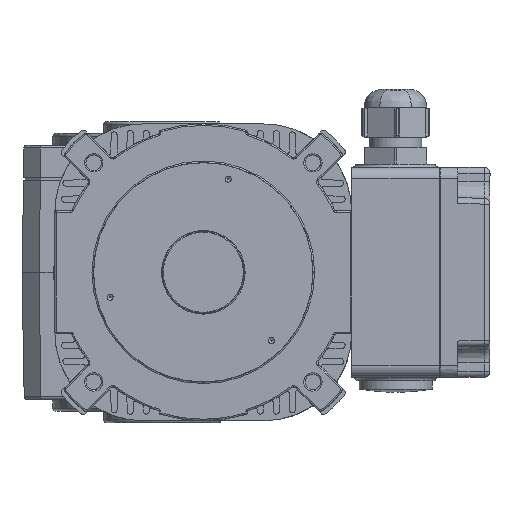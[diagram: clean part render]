
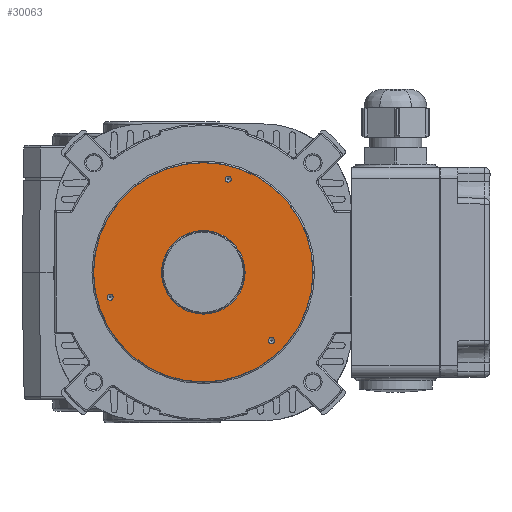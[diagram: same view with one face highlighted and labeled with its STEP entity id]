
A CAD part, left-side view. The second image highlights one B-rep face of the part: STEP entity #30063.
In plain terms, the highlighted planar face has unit normal (-1, 0, 0) as drawn and (0, 0, 1) by its records, which use the part's own axes.
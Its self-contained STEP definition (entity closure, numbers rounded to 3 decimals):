
#16 = EDGE_LOOP ( 'NONE', ( #26594 ) ) ;
#688 = DIRECTION ( 'NONE',  ( 1., 0., 0. ) ) ;
#2523 = ORIENTED_EDGE ( 'NONE', *, *, #42762, .F. ) ;
#4387 = VERTEX_POINT ( 'NONE', #25545 ) ;
#4576 = DIRECTION ( 'NONE',  ( 0., 0., -1. ) ) ;
#4956 = VERTEX_POINT ( 'NONE', #25117 ) ;
#5029 = CIRCLE ( 'NONE', #29262, 14.3 ) ;
#6303 = EDGE_CURVE ( 'NONE', #11979, #11979, #28848, .T. ) ;
#6792 = AXIS2_PLACEMENT_3D ( 'NONE', #9755, #20076, #30026 ) ;
#7271 = DIRECTION ( 'NONE',  ( 1., 0., 0. ) ) ;
#7310 = DIRECTION ( 'NONE',  ( 1., 0., 0. ) ) ;
#9412 = EDGE_LOOP ( 'NONE', ( #43195 ) ) ;
#9755 = CARTESIAN_POINT ( 'NONE',  ( -31.876, 8.541, 19.3 ) ) ;
#10774 = DIRECTION ( 'NONE',  ( 0., 0., 1. ) ) ;
#11979 = VERTEX_POINT ( 'NONE', #16532 ) ;
#12572 = CARTESIAN_POINT ( 'NONE',  ( 23.335, 23.335, 19.3 ) ) ;
#13316 = CIRCLE ( 'NONE', #29745, 37.5 ) ;
#15280 = CARTESIAN_POINT ( 'NONE',  ( 0., 0., 19.3 ) ) ;
#16532 = CARTESIAN_POINT ( 'NONE',  ( 22.81, 24.244, 19.3 ) ) ;
#17618 = DIRECTION ( 'NONE',  ( 0., 0., 1. ) ) ;
#18434 = CIRCLE ( 'NONE', #36463, 1.05 ) ;
#19096 = EDGE_LOOP ( 'NONE', ( #2523 ) ) ;
#20002 = AXIS2_PLACEMENT_3D ( 'NONE', #12572, #29977, #22917 ) ;
#20076 = DIRECTION ( 'NONE',  ( 0., 0., 1. ) ) ;
#20240 = CARTESIAN_POINT ( 'NONE',  ( -32.401, 7.632, 19.3 ) ) ;
#20694 = EDGE_LOOP ( 'NONE', ( #41448 ) ) ;
#21461 = AXIS2_PLACEMENT_3D ( 'NONE', #34817, #17618, #7310 ) ;
#22917 = DIRECTION ( 'NONE',  ( -0.5, 0.866, 0. ) ) ;
#24446 = FACE_BOUND ( 'NONE', #20694, .T. ) ;
#25117 = CARTESIAN_POINT ( 'NONE',  ( 9.591, -31.876, 19.3 ) ) ;
#25388 = EDGE_LOOP ( 'NONE', ( #35849 ) ) ;
#25545 = CARTESIAN_POINT ( 'NONE',  ( 37.5, 0., 19.3 ) ) ;
#26554 = EDGE_CURVE ( 'NONE', #4387, #4387, #13316, .T. ) ;
#26594 = ORIENTED_EDGE ( 'NONE', *, *, #31242, .F. ) ;
#28848 = CIRCLE ( 'NONE', #20002, 1.05 ) ;
#28862 = CARTESIAN_POINT ( 'NONE',  ( 14.3, 0., 19.3 ) ) ;
#29156 = EDGE_CURVE ( 'NONE', #34652, #34652, #5029, .T. ) ;
#29262 = AXIS2_PLACEMENT_3D ( 'NONE', #15280, #4576, #42722 ) ;
#29745 = AXIS2_PLACEMENT_3D ( 'NONE', #38550, #10774, #688 ) ;
#29977 = DIRECTION ( 'NONE',  ( 0., 0., 1. ) ) ;
#30026 = DIRECTION ( 'NONE',  ( -0.5, -0.866, 0. ) ) ;
#30063 = ADVANCED_FACE ( 'NONE', ( #24446, #41645, #40042, #30891, #36770 ), #31060, .T. ) ;
#30891 = FACE_BOUND ( 'NONE', #9412, .T. ) ;
#31060 = PLANE ( 'NONE',  #21461 ) ;
#31242 = EDGE_CURVE ( 'NONE', #4956, #4956, #18434, .T. ) ;
#31477 = CARTESIAN_POINT ( 'NONE',  ( 8.541, -31.876, 19.3 ) ) ;
#34652 = VERTEX_POINT ( 'NONE', #28862 ) ;
#34817 = CARTESIAN_POINT ( 'NONE',  ( 0., 0., 19.3 ) ) ;
#35849 = ORIENTED_EDGE ( 'NONE', *, *, #26554, .T. ) ;
#36463 = AXIS2_PLACEMENT_3D ( 'NONE', #31477, #38216, #7271 ) ;
#36770 = FACE_BOUND ( 'NONE', #19096, .T. ) ;
#38216 = DIRECTION ( 'NONE',  ( 0., 0., 1. ) ) ;
#38550 = CARTESIAN_POINT ( 'NONE',  ( 0., 0., 19.3 ) ) ;
#40042 = FACE_BOUND ( 'NONE', #16, .T. ) ;
#40800 = CIRCLE ( 'NONE', #6792, 1.05 ) ;
#41448 = ORIENTED_EDGE ( 'NONE', *, *, #29156, .T. ) ;
#41645 = FACE_OUTER_BOUND ( 'NONE', #25388, .T. ) ;
#42722 = DIRECTION ( 'NONE',  ( 1., 0., 0. ) ) ;
#42762 = EDGE_CURVE ( 'NONE', #44295, #44295, #40800, .T. ) ;
#43195 = ORIENTED_EDGE ( 'NONE', *, *, #6303, .F. ) ;
#44295 = VERTEX_POINT ( 'NONE', #20240 ) ;
